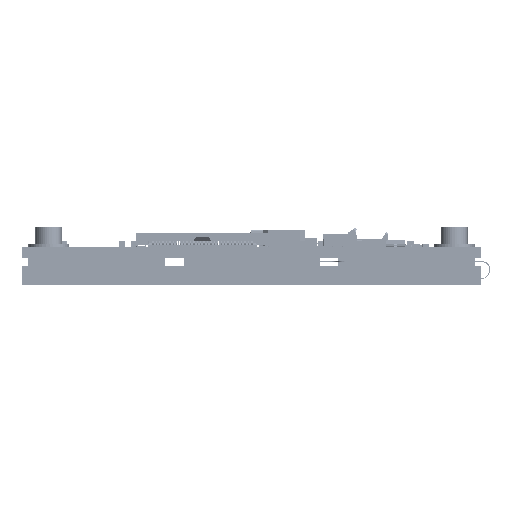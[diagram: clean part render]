
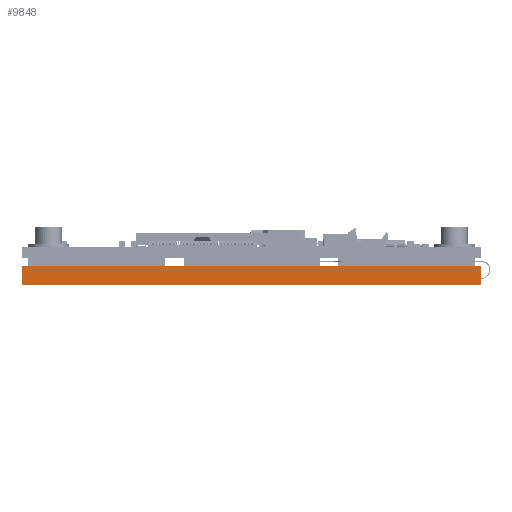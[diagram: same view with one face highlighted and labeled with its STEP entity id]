
A CAD part, left-side view. The second image highlights one B-rep face of the part: STEP entity #9848.
In plain terms, the highlighted planar face has unit normal (-1, 0, 0).
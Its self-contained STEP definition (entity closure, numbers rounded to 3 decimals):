
#6774 = ORIENTED_EDGE ( 'NONE', *, *, #457273, .F. ) ;
#9848 = ADVANCED_FACE ( 'NONE', ( #526753 ), #464107, .T. ) ;
#23175 = CARTESIAN_POINT ( 'NONE',  ( -104.85, 47.45, 6.772 ) ) ;
#26835 = CARTESIAN_POINT ( 'NONE',  ( -104.85, -19.7, 6.772 ) ) ;
#76483 = ORIENTED_EDGE ( 'NONE', *, *, #250473, .T. ) ;
#89396 = LINE ( 'NONE', #26835, #462201 ) ;
#95414 = ORIENTED_EDGE ( 'NONE', *, *, #263567, .F. ) ;
#112003 = VECTOR ( 'NONE', #771621, 1000. ) ;
#169404 = VECTOR ( 'NONE', #653437, 1000. ) ;
#179822 = EDGE_CURVE ( 'NONE', #494486, #285456, #89396, .T. ) ;
#186633 = CARTESIAN_POINT ( 'NONE',  ( -104.85, 47.45, 6.772 ) ) ;
#213539 = DIRECTION ( 'NONE',  ( -1., 0., 0. ) ) ;
#225803 = CARTESIAN_POINT ( 'NONE',  ( -104.85, 47.45, 6.772 ) ) ;
#250473 = EDGE_CURVE ( 'NONE', #292576, #494486, #405500, .T. ) ;
#263567 = EDGE_CURVE ( 'NONE', #652912, #285456, #713140, .T. ) ;
#285456 = VERTEX_POINT ( 'NONE', #422023 ) ;
#292576 = VERTEX_POINT ( 'NONE', #186633 ) ;
#381817 = ORIENTED_EDGE ( 'NONE', *, *, #179822, .T. ) ;
#398847 = LINE ( 'NONE', #23175, #169404 ) ;
#405500 = LINE ( 'NONE', #225803, #457064 ) ;
#422023 = CARTESIAN_POINT ( 'NONE',  ( -104.85, -19.7, 9.622 ) ) ;
#457064 = VECTOR ( 'NONE', #593179, 1000. ) ;
#457273 = EDGE_CURVE ( 'NONE', #292576, #652912, #398847, .T. ) ;
#462201 = VECTOR ( 'NONE', #790818, 1000. ) ;
#463581 = EDGE_LOOP ( 'NONE', ( #95414, #6774, #76483, #381817 ) ) ;
#464107 = PLANE ( 'NONE',  #668760 ) ;
#468287 = DIRECTION ( 'NONE',  ( 0., 1., 0. ) ) ;
#494486 = VERTEX_POINT ( 'NONE', #598609 ) ;
#516687 = CARTESIAN_POINT ( 'NONE',  ( -104.85, 47.45, 9.622 ) ) ;
#526753 = FACE_OUTER_BOUND ( 'NONE', #463581, .T. ) ;
#539693 = CARTESIAN_POINT ( 'NONE',  ( -104.85, 47.45, 9.622 ) ) ;
#593179 = DIRECTION ( 'NONE',  ( 0., -1., 0. ) ) ;
#598609 = CARTESIAN_POINT ( 'NONE',  ( -104.85, -19.7, 6.772 ) ) ;
#652912 = VERTEX_POINT ( 'NONE', #539693 ) ;
#653437 = DIRECTION ( 'NONE',  ( 0., 0., 1. ) ) ;
#668760 = AXIS2_PLACEMENT_3D ( 'NONE', #718944, #213539, #468287 ) ;
#713140 = LINE ( 'NONE', #516687, #112003 ) ;
#718944 = CARTESIAN_POINT ( 'NONE',  ( -104.85, 47.45, 6.772 ) ) ;
#771621 = DIRECTION ( 'NONE',  ( 0., -1., 0. ) ) ;
#790818 = DIRECTION ( 'NONE',  ( 0., 0., 1. ) ) ;
